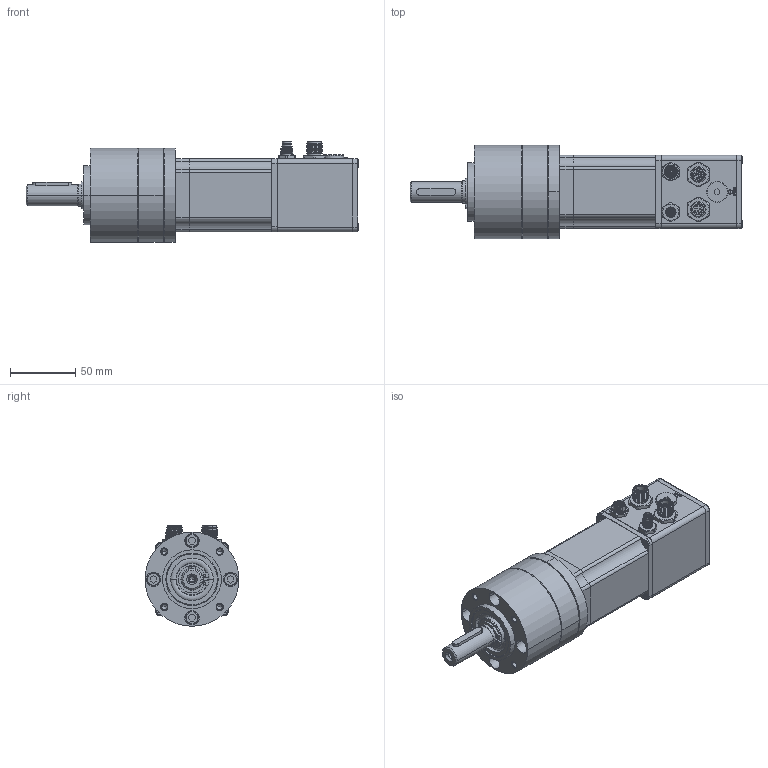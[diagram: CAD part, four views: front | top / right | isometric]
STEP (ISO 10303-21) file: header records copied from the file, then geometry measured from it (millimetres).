
FILE_DESCRIPTION (( 'STEP AP214' ), '1' );
FILE_NAME ('IDX56M_PM72-1stage.STEP', '2020-04-16T13:43:14', ( '' ), ( '' ), 'SwSTEP 2.0', 'SolidWorks 2018', '' );
FILE_SCHEMA (( 'AUTOMOTIVE_DESIGN' ));
Length unit declared in the file: millimetre
Products named in the file (4): PM72-1etage; 6576738_01_Adapt IDX56_PM72; B7B8186B6F20; IDX56M_PM72-1stage
Assembly tree (3 placements, depth 2):
  IDX56M_PM72-1stage
    PM72-1etage
    6576738_01_Adapt IDX56_PM72
    B7B8186B6F20
Bounding box: 254.3 x 72 x 77 mm (x, y, z)
Volume: 462747.3 mm3; surface area: 181016.7 mm2
Topology: 51 solids, 87 shells, 2565 faces, 6152 edges, 3834 vertices
Faces by surface type: cylinder 861, cone 782, plane 744, bspline 110, torus 68
Entity records: 106920 total; most frequent: CARTESIAN_POINT 16955, DIRECTION 13862, ORIENTED_EDGE 12228, EDGE_CURVE 6132, AXIS2_PLACEMENT_3D 5412, VERTEX_POINT 3834, VECTOR 3038, LINE 3038
